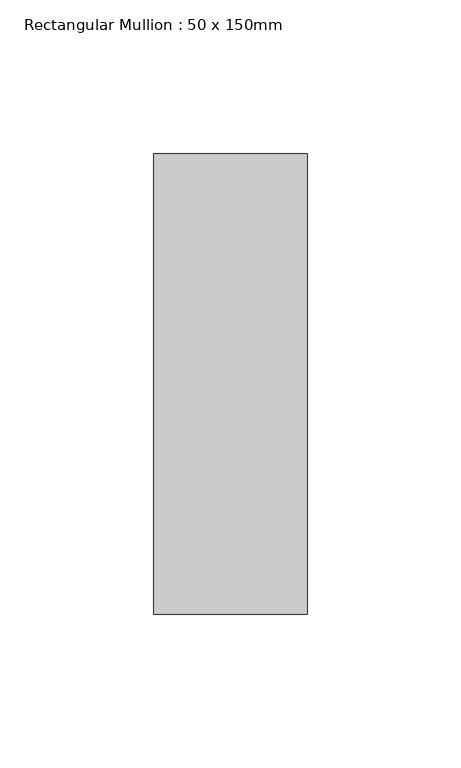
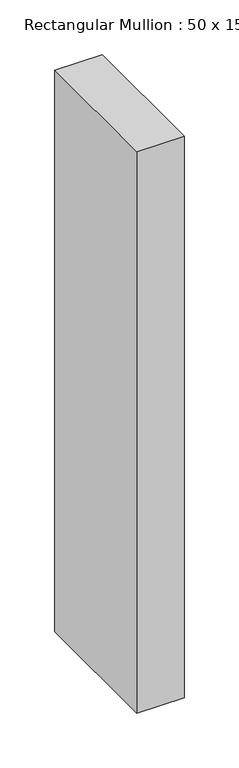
"""IFC4 building model written with IfcOpenShell, lengths in millimetres: member geometry, Rectangular Mullion : 50 x 150mm."""

from ifc_helpers import new_model, si_unit, frame, origin, place, context, project, spatial, polyline, outline, extrude, source, transform, mapped, element, save


def rectangular_mullion_50_x_150mm_5679a0dd(model_context):
    return source(origin(), model_context, "Body", "SweptSolid", [
        extrude(outline(polyline([(0.0, 75.0), (0.0, -75.0), (-50.0, -75.0), (-50.0, 75.0), (0.0, 75.0)])), frame((0.0, 0.0, -626.5622708), z_axis=(0.0, 0.0, 1.0), x_axis=(1.0, 0.0, 0.0)), (0.0, 0.0, 1.0), 626.5622708),
    ])


if __name__ == "__main__":
    model = new_model("IFC4")
    model_context = context("Model", 3, world=origin())
    ifc_project = project(units=[si_unit("LENGTHUNIT", "METRE", prefix="MILLI")], contexts=[model_context])
    site = spatial("IfcSite", under=ifc_project)
    building = spatial("IfcBuilding", under=site)
    placement = place(None, origin())
    rectangular_mullion_50_x_150mm_shape = rectangular_mullion_50_x_150mm_5679a0dd(model_context)
    element("IfcMember", 1, ObjectType="Rectangular Mullion : 50 x 150mm", at=placement, inside=building, context=model_context, shape_type="MappedRepresentation", body=[
        mapped(rectangular_mullion_50_x_150mm_shape, transform((0.0, 0.0, 0.0), x_axis=(1.0, 0.0, 0.0), y_axis=(0.0, 1.0, 0.0), z_axis=(0.0, 0.0, 1.0))),
    ])
    save(model, "model.ifc")
